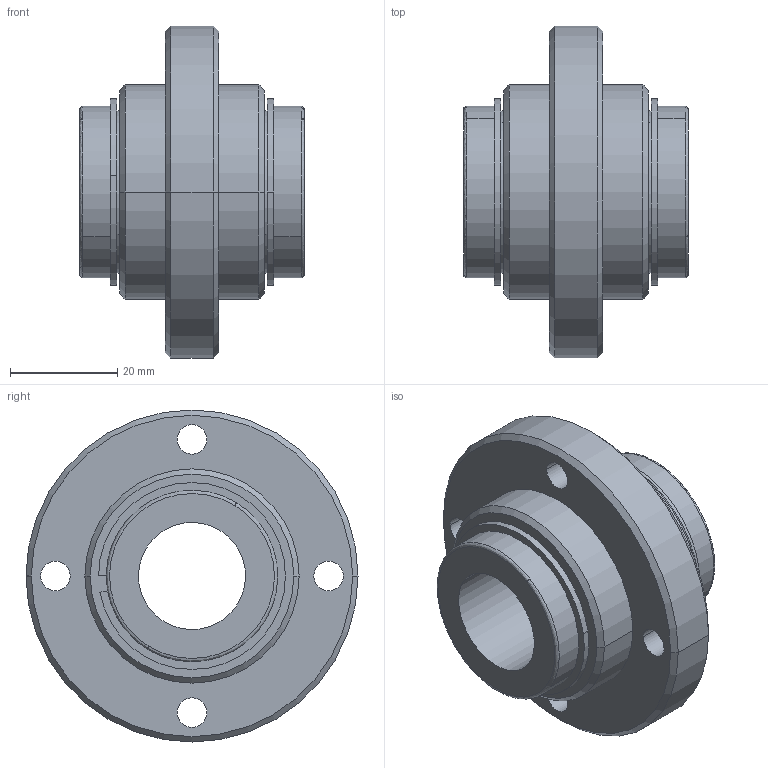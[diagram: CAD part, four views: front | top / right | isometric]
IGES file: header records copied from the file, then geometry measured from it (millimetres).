
Start section: 3D InterOp IGES (Version 21 0 1), Spatial Corp. Copyright (c) 1999-2007.
Global section: file name: PNCD-20VUU.igs; native system: Spatial Corp.; preprocessor: 3D InterOp GENERIC/IGES 3.0; author: Noname; organization: Noname; date: 20220207.092805; units: millimetre
Bounding box: 42 x 62 x 62 mm (x, y, z)
Surface area: 20858 mm2 (no closed solid volume)
Topology: 0 solids, 0 shells, 66 faces, 300 edges, 300 vertices
Faces by surface type: revolution 48, extrusion 18
